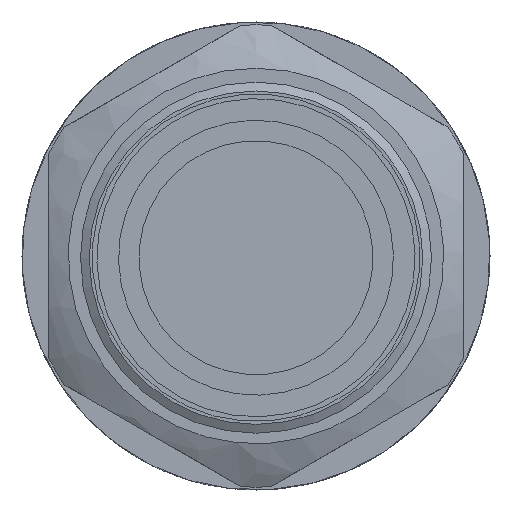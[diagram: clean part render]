
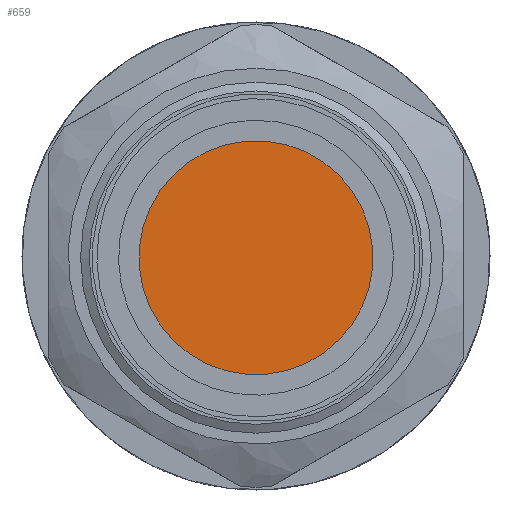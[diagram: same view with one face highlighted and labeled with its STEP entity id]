
A CAD part, left-side view. The second image highlights one B-rep face of the part: STEP entity #659.
In plain terms, the highlighted planar face has unit normal (-1, 0, 0) as drawn and (0, 0, -1) by its records, which use the part's own axes.
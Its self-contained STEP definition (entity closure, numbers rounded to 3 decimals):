
#659 = ADVANCED_FACE( '', ( #1293 ), #1294, .T. );
#1293 = FACE_OUTER_BOUND( '', #2180, .T. );
#1294 = PLANE( '', #2181 );
#2180 = EDGE_LOOP( '', ( #3306 ) );
#2181 = AXIS2_PLACEMENT_3D( '', #3307, #3308, #3309 );
#3306 = ORIENTED_EDGE( '', *, *, #4864, .T. );
#3307 = CARTESIAN_POINT( '', ( 0., 0., -1. ) );
#3308 = DIRECTION( '', ( 0., 0., -1. ) );
#3309 = DIRECTION( '', ( -1., 0., 0. ) );
#4864 = EDGE_CURVE( '', #5694, #5694, #5695, .T. );
#5694 = VERTEX_POINT( '', #6933 );
#5695 = CIRCLE( '', #6934, 10. );
#6933 = CARTESIAN_POINT( '', ( 10., 0., -1. ) );
#6934 = AXIS2_PLACEMENT_3D( '', #8036, #8037, #8038 );
#8036 = CARTESIAN_POINT( '', ( 0., 0., -1. ) );
#8037 = DIRECTION( '', ( 0., 0., -1. ) );
#8038 = DIRECTION( '', ( 1., 0., 0. ) );
